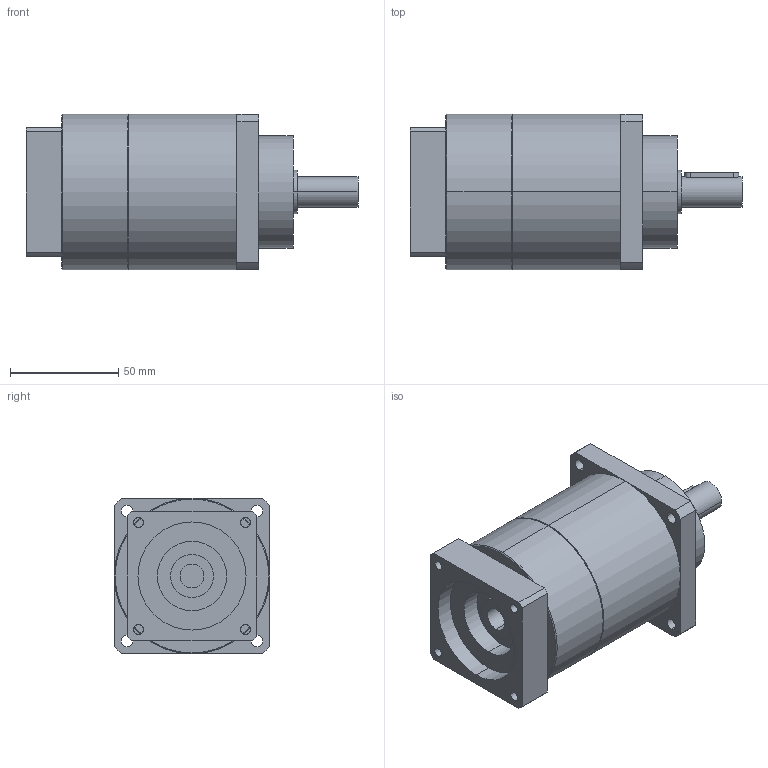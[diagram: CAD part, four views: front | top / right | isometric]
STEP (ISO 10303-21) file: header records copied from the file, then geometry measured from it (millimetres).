
FILE_DESCRIPTION(('CoCreate Modeling STEP Export'),'2;1');
FILE_NAME('GPT75_ig-9-12-16-20-25-28-35-40-50-70-100_14_B5T_11_P17.stp','2014-08-27T13:34:29',(''),(''),'CoCreate Modeling STEP processor for AP214 (Solid Model)','CoCreate Modeling 16.00C 25-Feb-2009 (C) Parametric Technology GmbH','');
FILE_SCHEMA(('AUTOMOTIVE_DESIGN { 1 0 10303 214 1 1 1 1 }'));
Length unit declared in the file: millimetre
Products named in the file (2): GPT75_ig-9-12-16-20-25-28-35-40-50-70-100_14_B5T_11_P17
Assembly tree (1 placements, depth 2):
  GPT75_ig-9-12-16-20-25-28-35-40-50-70-100_14_B5T_11_P17
    GPT75_ig-9-12-16-20-25-28-35-40-50-70-100_14_B5T_11_P17
Bounding box: 153.5 x 72 x 72 mm (x, y, z)
Volume: 453056.5 mm3; surface area: 44924.6 mm2
Topology: 1 solids, 1 shells, 88 faces, 226 edges, 145 vertices
Faces by surface type: cylinder 46, plane 38, cone 4
Entity records: 2676 total; most frequent: CARTESIAN_POINT 744, ORIENTED_EDGE 452, DIRECTION 334, EDGE_CURVE 226, VERTEX_POINT 145, AXIS2_PLACEMENT_3D 123, EDGE_LOOP 109, VECTOR 88
